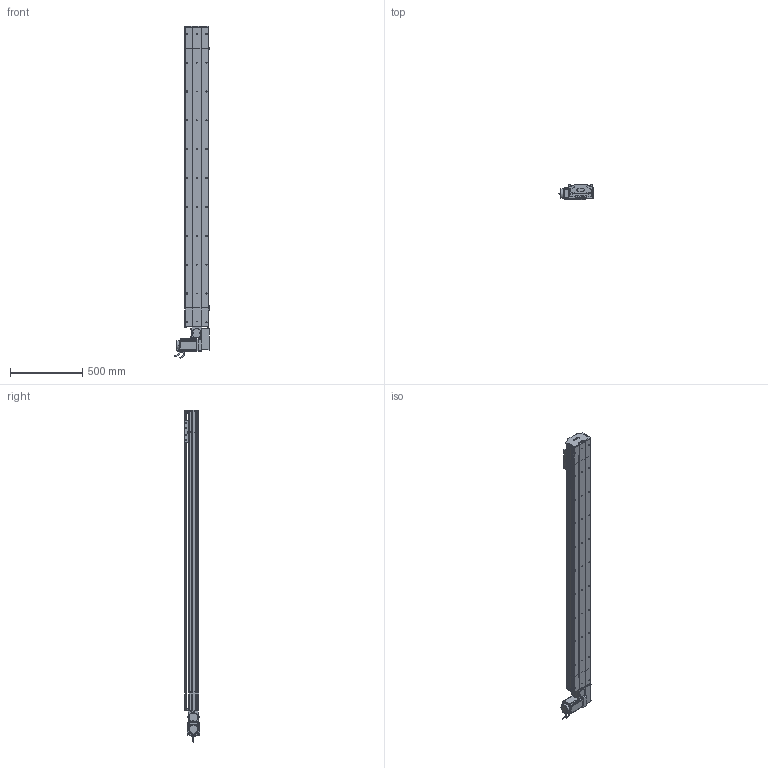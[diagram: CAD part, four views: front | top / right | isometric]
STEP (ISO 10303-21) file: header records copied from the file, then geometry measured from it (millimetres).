
FILE_DESCRIPTION (( 'STEP AP214' ), '1' );
FILE_NAME ('D17 TBH LH S1800.STEP', '2010-06-30T08:17:08', ( 'Christophe Gaillard' ), ( 'SGA' ), 'SwSTEP 2.0', 'SolidWorks 2010', '' );
FILE_SCHEMA (( 'AUTOMOTIVE_DESIGN' ));
Length unit declared in the file: millimetre
Products named in the file (40): cache arbre D17_Default; couroie head D17_Default; cache D17_Default; Arbre+rail head D17B; course 1800 D17B_Default; Couroie+ rail D17 Course 1800 ; corp D17B 1800_Default; plaque de  bout head D17B LH_Default; couvercle D17B head_Default; Moteur motionking 90BLDC125A-640; corpl head D17 _Default; vis M5 L5_Default; Head LH D17B_Default; couvercle D17B course L1800_Default; Conecteur_Default; Conecteur2_Default; codeur 90BLDC125-640; Vis M5 L16-2_Default; vis M5 L16_Default; Plaque racord D17_Default; vis M5 L70_Default; tete d''axe poulie D17B; corpl tail D17B_Default; Tail D17B_Default; poulie tail_Default; plaque de  bout tail D17B_Default; Rail D17B; vis M5 L8 90°_Default; couvercle D17B_Default; Couroie tail D17B_Default; Chariot D17; chariot D17S_Default; vis M5 L25_Default; vis M5 L12_Default; guide D17; D17 TBH LH S1800; poulie head_Default; Renvoi LH_Default; corps 90BLDC125A-640; avant 90BLDC125A-640
Assembly tree (70 placements, depth 4):
  D17 TBH LH S1800
    Head LH D17B_Default
      vis M5 L12_Default  x8
      vis M5 L16_Default  x2
      cache D17_Default  x2
      Vis M5 L16-2_Default  x4
      vis M5 L5_Default  x4
      vis M5 L70_Default  x4
      poulie head_Default
      cache arbre D17_Default
      couvercle D17B head_Default
      Moteur motionking 90BLDC125A-640
        avant 90BLDC125A-640
        Conecteur2_Default
        corps 90BLDC125A-640
        Conecteur_Default
        codeur 90BLDC125-640
      Plaque racord D17_Default
      Arbre+rail head D17B
      Renvoi LH_Default
      corpl head D17 _Default
      plaque de  bout head D17B LH_Default
      couroie head D17_Default
      vis M5 L25_Default  x2
    course 1800 D17B_Default
      corp D17B 1800_Default
      couvercle D17B course L1800_Default
      Couroie+ rail D17 Course 1800 
    Tail D17B_Default
      vis M5 L25_Default  x2
      corpl tail D17B_Default
      poulie tail_Default
      couvercle D17B_Default
      vis M5 L12_Default  x4
      vis M5 L8 90°_Default  x2
      Couroie tail D17B_Default
      Rail D17B
      tete d''axe poulie D17B
      plaque de  bout tail D17B_Default
    chariot D17S_Default
      guide D17  x2
      vis M5 L12_Default  x4
      Chariot D17
Bounding box: 245.2 x 105.65 x 2300.95 mm (x, y, z)
Volume: 13254060.9 mm3; surface area: 3789551.9 mm2
Topology: 94 solids, 94 shells, 2701 faces, 6821 edges, 4390 vertices
Faces by surface type: plane 1607, cylinder 781, bspline 136, cone 88, torus 85, sphere 4
Entity records: 84768 total; most frequent: CARTESIAN_POINT 25033, ORIENTED_EDGE 10414, DIRECTION 9884, EDGE_CURVE 5207, VECTOR 3454, LINE 3454, VERTEX_POINT 3414, AXIS2_PLACEMENT_3D 3215
